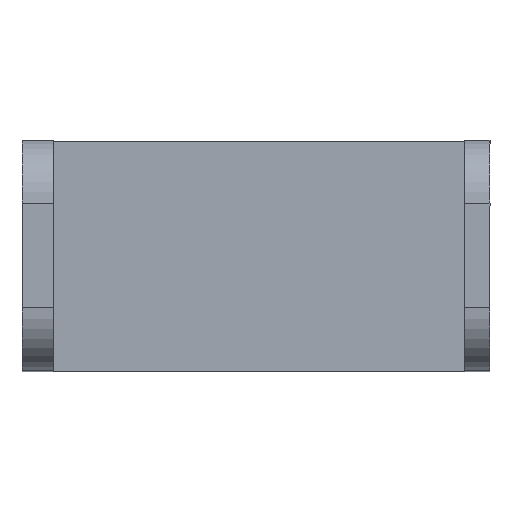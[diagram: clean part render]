
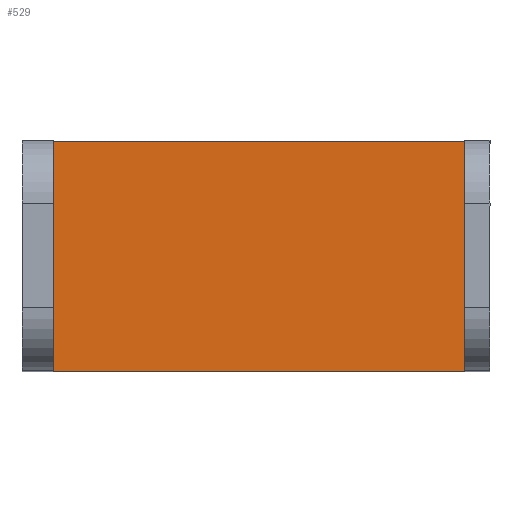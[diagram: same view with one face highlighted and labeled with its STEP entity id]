
A CAD part, top view. The second image highlights one B-rep face of the part: STEP entity #529.
In plain terms, the highlighted planar face has unit normal (0, 0, 1).
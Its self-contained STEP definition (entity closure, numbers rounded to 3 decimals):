
#42=PLANE('',#597);
#68=FACE_OUTER_BOUND('',#110,.T.);
#110=EDGE_LOOP('',(#484,#485,#486,#487));
#119=LINE('',#775,#163);
#129=LINE('',#805,#173);
#134=LINE('',#814,#178);
#155=LINE('',#897,#199);
#163=VECTOR('',#616,10.);
#173=VECTOR('',#642,10.);
#178=VECTOR('',#649,10.);
#199=VECTOR('',#748,10.);
#236=VERTEX_POINT('',#772);
#237=VERTEX_POINT('',#774);
#248=VERTEX_POINT('',#802);
#249=VERTEX_POINT('',#804);
#285=EDGE_CURVE('',#237,#236,#119,.T.);
#300=EDGE_CURVE('',#249,#248,#129,.T.);
#305=EDGE_CURVE('',#248,#237,#134,.T.);
#347=EDGE_CURVE('',#236,#249,#155,.T.);
#484=ORIENTED_EDGE('',*,*,#300,.T.);
#485=ORIENTED_EDGE('',*,*,#305,.T.);
#486=ORIENTED_EDGE('',*,*,#285,.T.);
#487=ORIENTED_EDGE('',*,*,#347,.T.);
#529=ADVANCED_FACE('',(#68),#42,.T.);
#597=AXIS2_PLACEMENT_3D('',#898,#749,#750);
#616=DIRECTION('',(1.,0.,0.));
#642=DIRECTION('',(-1.,0.,0.));
#649=DIRECTION('',(0.,-1.,0.));
#748=DIRECTION('',(0.,1.,0.));
#749=DIRECTION('center_axis',(0.,0.,1.));
#750=DIRECTION('ref_axis',(1.,0.,0.));
#772=CARTESIAN_POINT('',(16.6,-9.15,2.));
#774=CARTESIAN_POINT('',(-16.1,-9.15,2.));
#775=CARTESIAN_POINT('',(18.6,-9.15,2.));
#802=CARTESIAN_POINT('',(-16.1,9.15,2.));
#804=CARTESIAN_POINT('',(16.6,9.15,2.));
#805=CARTESIAN_POINT('',(-18.6,9.15,2.));
#814=CARTESIAN_POINT('',(-16.1,9.15,2.));
#897=CARTESIAN_POINT('',(16.6,9.15,2.));
#898=CARTESIAN_POINT('Origin',(0.25,0.,2.));
